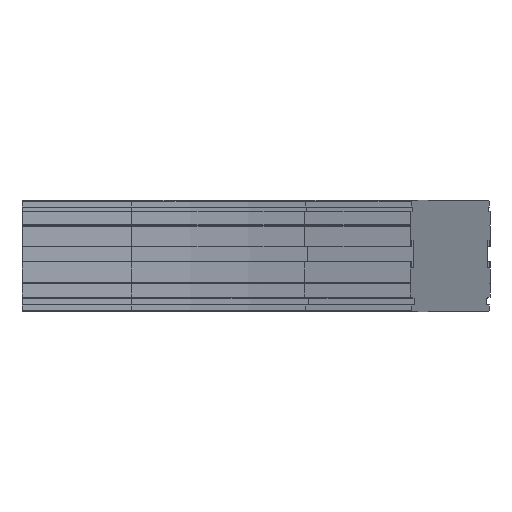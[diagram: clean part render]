
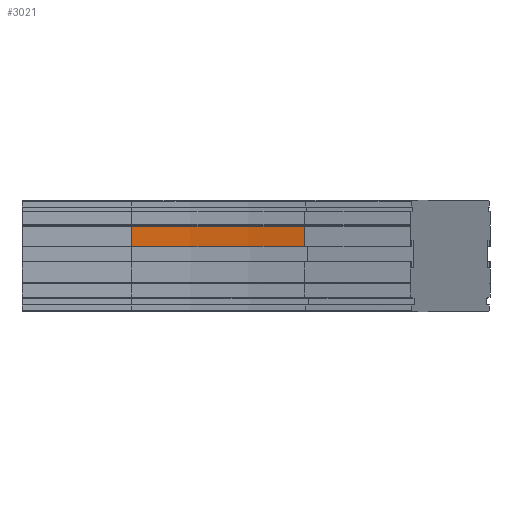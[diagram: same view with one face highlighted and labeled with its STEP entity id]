
A CAD part, front view. The second image highlights one B-rep face of the part: STEP entity #3021.
In plain terms, the highlighted cylindrical face has radius 488 mm (diameter 976 mm), a partial arc.
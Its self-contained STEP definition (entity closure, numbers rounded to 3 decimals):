
#1620=CARTESIAN_POINT('',(206.304,-128.628,-19.));
#1621=VERTEX_POINT('',#1620);
#1628=CARTESIAN_POINT('',(206.304,-128.628,-34.));
#1629=VERTEX_POINT('',#1628);
#1630=CARTESIAN_POINT('',(206.304,-128.628,-34.));
#1631=DIRECTION('',(0.0,0.0,1.0));
#1632=VECTOR('',#1631,15.);
#1633=LINE('',#1630,#1632);
#1634=EDGE_CURVE('',#1629,#1621,#1633,.T.);
#2989=CARTESIAN_POINT('',(80.0,-600.0,-26.5));
#2990=DIRECTION('',(0.,0.,-1.0));
#2991=DIRECTION('',(-0.259,-0.966,0.));
#2992=AXIS2_PLACEMENT_3D('',#2989,#2990,#2991);
#2993=CYLINDRICAL_SURFACE('',#2992,488.);
#2994=ORIENTED_EDGE('',*,*,#1634,.T.);
#2995=CARTESIAN_POINT('',(80.0,-112.,-19.));
#2996=VERTEX_POINT('',#2995);
#2997=CARTESIAN_POINT('',(80.0,-600.0,-19.));
#2998=DIRECTION('',(0.,0.,-1.));
#2999=DIRECTION('',(-0.259,-0.966,0.));
#3000=AXIS2_PLACEMENT_3D('',#2997,#2998,#2999);
#3001=CIRCLE('',#3000,488.);
#3002=EDGE_CURVE('',#2996,#1621,#3001,.T.);
#3003=ORIENTED_EDGE('',*,*,#3002,.F.);
#3004=CARTESIAN_POINT('',(80.0,-112.,-34.));
#3005=VERTEX_POINT('',#3004);
#3006=CARTESIAN_POINT('',(80.0,-112.,-34.));
#3007=DIRECTION('',(0.0,0.0,1.0));
#3008=VECTOR('',#3007,15.);
#3009=LINE('',#3006,#3008);
#3010=EDGE_CURVE('',#3005,#2996,#3009,.T.);
#3011=ORIENTED_EDGE('',*,*,#3010,.F.);
#3012=CARTESIAN_POINT('',(80.0,-600.0,-34.));
#3013=DIRECTION('',(0.,0.,-1.));
#3014=DIRECTION('',(-0.259,-0.966,0.));
#3015=AXIS2_PLACEMENT_3D('',#3012,#3013,#3014);
#3016=CIRCLE('',#3015,488.);
#3017=EDGE_CURVE('',#3005,#1629,#3016,.T.);
#3018=ORIENTED_EDGE('',*,*,#3017,.T.);
#3019=EDGE_LOOP('',(#2994,#3003,#3011,#3018));
#3020=FACE_OUTER_BOUND('',#3019,.T.);
#3021=ADVANCED_FACE('',(#3020),#2993,.F.);
